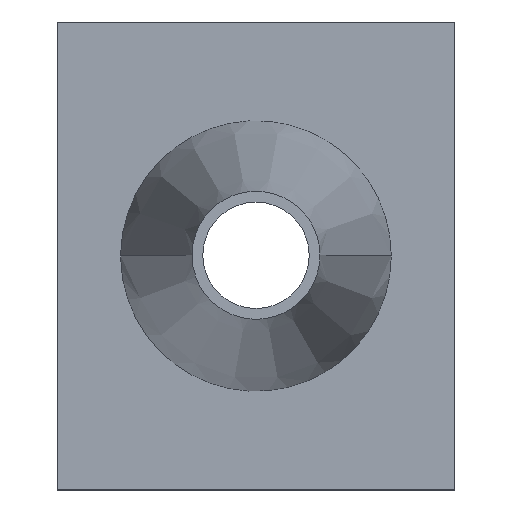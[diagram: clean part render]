
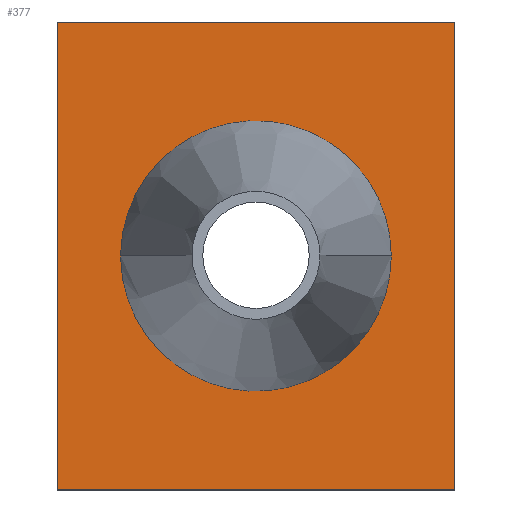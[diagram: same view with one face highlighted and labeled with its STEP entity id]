
A CAD part, top view. The second image highlights one B-rep face of the part: STEP entity #377.
In plain terms, the highlighted planar face has unit normal (0, 0, 1).
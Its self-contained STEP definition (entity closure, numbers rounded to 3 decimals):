
#167=CARTESIAN_POINT('Vertex',(0.,132.,3.)) ;
#174=CARTESIAN_POINT('Vertex',(0.,0.,3.)) ;
#177=CARTESIAN_POINT('Line Origine',(0.,66.,3.)) ;
#198=CARTESIAN_POINT('Vertex',(112.,132.,3.)) ;
#201=CARTESIAN_POINT('Line Origine',(56.,132.,3.)) ;
#222=CARTESIAN_POINT('Vertex',(112.,0.,3.)) ;
#225=CARTESIAN_POINT('Line Origine',(112.,66.,3.)) ;
#242=CARTESIAN_POINT('Line Origine',(56.,0.,3.)) ;
#324=CARTESIAN_POINT('Axis2P3D Location',(0.,0.,3.)) ;
#336=CARTESIAN_POINT('Control Point',(94.148,66.,3.)) ;
#337=CARTESIAN_POINT('Control Point',(94.148,72.067,3.)) ;
#338=CARTESIAN_POINT('Control Point',(92.942,78.134,3.)) ;
#339=CARTESIAN_POINT('Control Point',(90.528,83.881,3.)) ;
#340=CARTESIAN_POINT('Control Point',(83.553,94.099,3.)) ;
#341=CARTESIAN_POINT('Control Point',(73.2,100.872,3.)) ;
#342=CARTESIAN_POINT('Control Point',(67.405,103.173,3.)) ;
#343=CARTESIAN_POINT('Control Point',(55.225,105.346,3.)) ;
#344=CARTESIAN_POINT('Control Point',(43.139,102.695,3.)) ;
#345=CARTESIAN_POINT('Control Point',(37.44,100.168,3.)) ;
#346=CARTESIAN_POINT('Control Point',(27.611,93.17,3.)) ;
#347=CARTESIAN_POINT('Control Point',(21.122,83.024,3.)) ;
#348=CARTESIAN_POINT('Control Point',(18.942,77.532,3.)) ;
#349=CARTESIAN_POINT('Control Point',(17.852,71.766,3.)) ;
#350=CARTESIAN_POINT('Control Point',(17.852,66.,3.)) ;
#351=CARTESIAN_POINT('Vertex',(94.148,66.,3.)) ;
#353=CARTESIAN_POINT('Vertex',(17.852,66.,3.)) ;
#357=CARTESIAN_POINT('Control Point',(94.148,66.,3.)) ;
#358=CARTESIAN_POINT('Control Point',(94.148,59.933,3.)) ;
#359=CARTESIAN_POINT('Control Point',(92.942,53.866,3.)) ;
#360=CARTESIAN_POINT('Control Point',(90.528,48.119,3.)) ;
#361=CARTESIAN_POINT('Control Point',(83.553,37.901,3.)) ;
#362=CARTESIAN_POINT('Control Point',(73.2,31.128,3.)) ;
#363=CARTESIAN_POINT('Control Point',(67.405,28.827,3.)) ;
#364=CARTESIAN_POINT('Control Point',(55.225,26.654,3.)) ;
#365=CARTESIAN_POINT('Control Point',(43.139,29.305,3.)) ;
#366=CARTESIAN_POINT('Control Point',(37.44,31.832,3.)) ;
#367=CARTESIAN_POINT('Control Point',(27.611,38.83,3.)) ;
#368=CARTESIAN_POINT('Control Point',(21.122,48.976,3.)) ;
#369=CARTESIAN_POINT('Control Point',(18.942,54.468,3.)) ;
#370=CARTESIAN_POINT('Control Point',(17.852,60.234,3.)) ;
#371=CARTESIAN_POINT('Control Point',(17.852,66.,3.)) ;
#178=DIRECTION('Vector Direction',(0.,1.,0.)) ;
#202=DIRECTION('Vector Direction',(-1.,0.,0.)) ;
#226=DIRECTION('Vector Direction',(0.,1.,0.)) ;
#243=DIRECTION('Vector Direction',(1.,0.,0.)) ;
#325=DIRECTION('Axis2P3D Direction',(0.,0.,1.)) ;
#326=DIRECTION('Axis2P3D XDirection',(1.,0.,0.)) ;
#327=AXIS2_PLACEMENT_3D('Plane Axis2P3D',#324,#325,#326) ;
#330=ORIENTED_EDGE('',*,*,#181,.F.) ;
#331=ORIENTED_EDGE('',*,*,#246,.T.) ;
#332=ORIENTED_EDGE('',*,*,#229,.T.) ;
#333=ORIENTED_EDGE('',*,*,#205,.T.) ;
#374=ORIENTED_EDGE('',*,*,#355,.F.) ;
#375=ORIENTED_EDGE('',*,*,#372,.T.) ;
#376=FACE_BOUND('',#373,.T.) ;
#179=VECTOR('Line Direction',#178,1.) ;
#203=VECTOR('Line Direction',#202,1.) ;
#227=VECTOR('Line Direction',#226,1.) ;
#244=VECTOR('Line Direction',#243,1.) ;
#377=ADVANCED_FACE('PartBody',(#334,#376),#328,.T.) ;
#335=B_SPLINE_CURVE_WITH_KNOTS('',5,(#336,#337,#338,#339,#340,#341,#342,#343,#344,#345,#346,#347,#348,#349,#350),.UNSPECIFIED.,.F.,.U.,(6,3,3,3,6),(0.,32.595,65.194,97.793,128.773),.UNSPECIFIED.) ;
#356=B_SPLINE_CURVE_WITH_KNOTS('',5,(#357,#358,#359,#360,#361,#362,#363,#364,#365,#366,#367,#368,#369,#370,#371),.UNSPECIFIED.,.F.,.U.,(6,3,3,3,6),(0.,32.595,65.194,97.793,128.773),.UNSPECIFIED.) ;
#181=EDGE_CURVE('',#175,#168,#180,.T.) ;
#205=EDGE_CURVE('',#199,#168,#204,.T.) ;
#229=EDGE_CURVE('',#223,#199,#228,.T.) ;
#246=EDGE_CURVE('',#175,#223,#245,.T.) ;
#355=EDGE_CURVE('',#352,#354,#335,.T.) ;
#372=EDGE_CURVE('',#352,#354,#356,.T.) ;
#329=EDGE_LOOP('',(#330,#331,#332,#333)) ;
#373=EDGE_LOOP('',(#374,#375)) ;
#334=FACE_OUTER_BOUND('',#329,.T.) ;
#180=LINE('Line',#177,#179) ;
#204=LINE('Line',#201,#203) ;
#228=LINE('Line',#225,#227) ;
#245=LINE('Line',#242,#244) ;
#328=PLANE('',#327) ;
#168=VERTEX_POINT('',#167) ;
#175=VERTEX_POINT('',#174) ;
#199=VERTEX_POINT('',#198) ;
#223=VERTEX_POINT('',#222) ;
#352=VERTEX_POINT('',#351) ;
#354=VERTEX_POINT('',#353) ;
